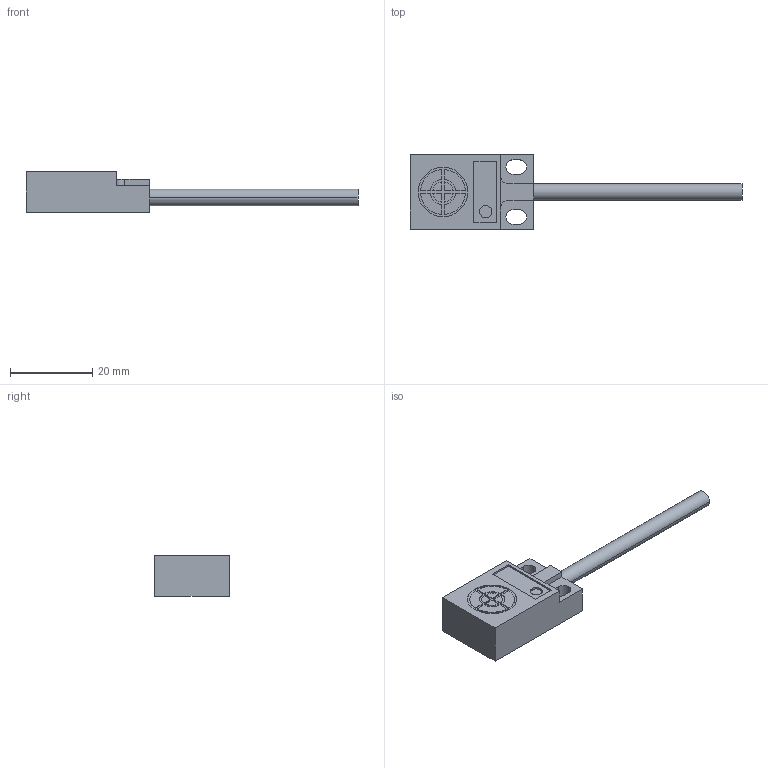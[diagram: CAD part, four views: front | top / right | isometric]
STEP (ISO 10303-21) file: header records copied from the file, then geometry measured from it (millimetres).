
FILE_DESCRIPTION (( 'STEP AP214' ), '1' );
FILE_NAME ('SP18-B.STEP', '2025-09-10T12:01:59', ( 'Windows User' ), ( 'P R C' ), 'SwSTEP 2.0', 'SolidWorks 2023', '' );
FILE_SCHEMA (( 'AUTOMOTIVE_DESIGN' ));
Length unit declared in the file: millimetre
Products named in the file (1): SP18-B
Bounding box: 80.6 x 18 x 9.9 mm (x, y, z)
Volume: 5304.2 mm3; surface area: 2803.2 mm2
Topology: 1 solids, 1 shells, 74 faces, 180 edges, 120 vertices
Faces by surface type: plane 48, cylinder 26
Entity records: 2207 total; most frequent: DIRECTION 382, CARTESIAN_POINT 375, ORIENTED_EDGE 360, EDGE_CURVE 180, VECTOR 128, LINE 128, AXIS2_PLACEMENT_3D 127, VERTEX_POINT 120
